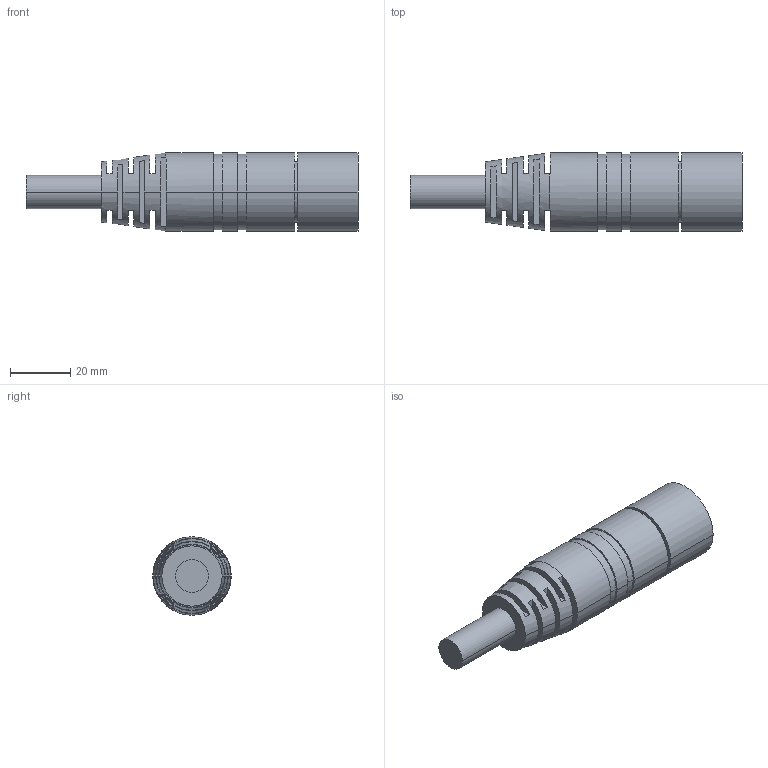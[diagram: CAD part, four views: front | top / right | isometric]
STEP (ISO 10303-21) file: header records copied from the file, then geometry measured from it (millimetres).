
FILE_DESCRIPTION( ( '' ), '1' );
FILE_NAME( '//partserver001.servicenet/client_exchange/iodir/jobs/output/wkb16339802_no2/STEP/e11736_2_03.stp', '2009-05-20T10:54:56', ( '' ), ( '' ), ' ', ' ', ' ' );
FILE_SCHEMA( ( 'CONFIG_CONTROL_DESIGN' ) );
Length unit declared in the file: millimetre
Products named in the file (1): 1
Bounding box: 110 x 26 x 26 mm (x, y, z)
Volume: 38570.3 mm3; surface area: 12505.7 mm2
Topology: 1 solids, 1 shells, 130 faces, 280 edges, 186 vertices
Faces by surface type: plane 66, cylinder 60, cone 4
Entity records: 3628 total; most frequent: DIRECTION 678, CARTESIAN_POINT 645, ORIENTED_EDGE 560, AXIS2_PLACEMENT_3D 291, EDGE_CURVE 280, VERTEX_POINT 186, EDGE_LOOP 164, CIRCLE 160
